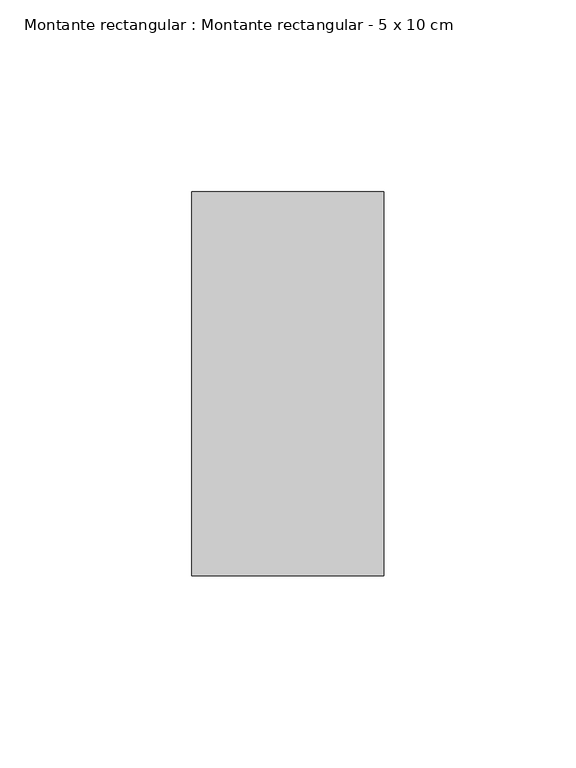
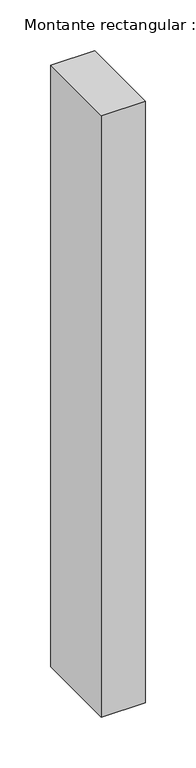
"""IFC4 building model written with IfcOpenShell, lengths in millimetres: member geometry, Montante rectangular : Montante rectangular - 5 x 10 cm."""

from ifc_helpers import new_model, si_unit, frame, origin, place, context, project, spatial, polyline, outline, extrude, source, transform, mapped, element, save


def montante_rectangular_montante_rectangular_5_x_10_cm_c9eb47b4(model_context):
    return source(origin(), model_context, "Body", "SweptSolid", [
        extrude(outline(polyline([(0.0, 50.0), (0.0, -50.0), (-50.0, -50.0), (-50.0, 50.0), (0.0, 50.0)])), frame((0.0, 0.0, -725.0), z_axis=(0.0, 0.0, 1.0), x_axis=(1.0, 0.0, 0.0)), (0.0, 0.0, 1.0), 725.0),
    ])


if __name__ == "__main__":
    model = new_model("IFC4")
    model_context = context("Model", 3, world=origin())
    ifc_project = project(units=[si_unit("LENGTHUNIT", "METRE", prefix="MILLI")], contexts=[model_context])
    site = spatial("IfcSite", under=ifc_project)
    building = spatial("IfcBuilding", under=site)
    placement = place(None, origin())
    montante_rectangular_montante_rectangular_5_x_10_cm_shape = montante_rectangular_montante_rectangular_5_x_10_cm_c9eb47b4(model_context)
    element("IfcMember", 1, ObjectType="Montante rectangular : Montante rectangular - 5 x 10 cm", at=placement, inside=building, context=model_context, shape_type="MappedRepresentation", body=[
        mapped(montante_rectangular_montante_rectangular_5_x_10_cm_shape, transform((0.0, 0.0, 0.0), x_axis=(1.0, 0.0, 0.0), y_axis=(0.0, 1.0, 0.0), z_axis=(0.0, 0.0, 1.0))),
    ])
    save(model, "model.ifc")
